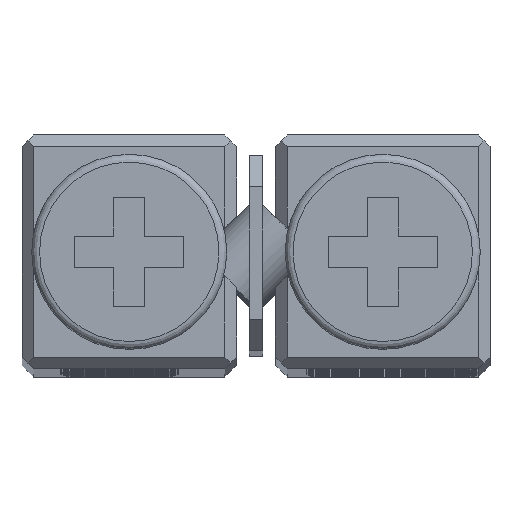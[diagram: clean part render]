
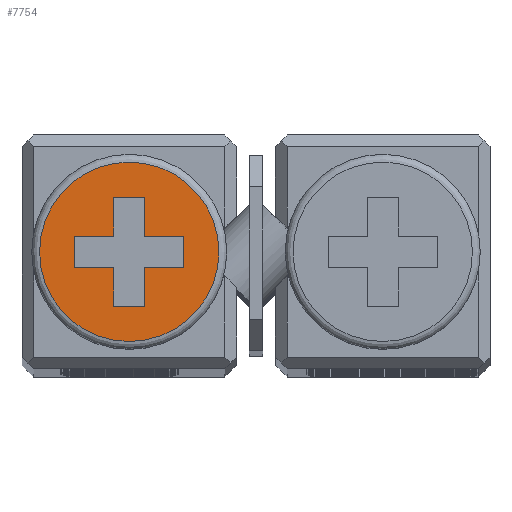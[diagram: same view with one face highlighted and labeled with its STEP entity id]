
A CAD part, top view. The second image highlights one B-rep face of the part: STEP entity #7754.
In plain terms, the highlighted planar face has unit normal (0, 0, 1).
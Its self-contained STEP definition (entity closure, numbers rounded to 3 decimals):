
#353=LINE('',#11278,#1039);
#354=LINE('',#11281,#1040);
#355=LINE('',#11283,#1041);
#356=LINE('',#11285,#1042);
#357=LINE('',#11287,#1043);
#358=LINE('',#11289,#1044);
#359=LINE('',#11291,#1045);
#360=LINE('',#11293,#1046);
#361=LINE('',#11295,#1047);
#362=LINE('',#11297,#1048);
#363=LINE('',#11299,#1049);
#364=LINE('',#11301,#1050);
#1039=VECTOR('',#9131,1000.);
#1040=VECTOR('',#9132,1000.);
#1041=VECTOR('',#9133,1000.);
#1042=VECTOR('',#9134,1000.);
#1043=VECTOR('',#9135,1000.);
#1044=VECTOR('',#9136,1000.);
#1045=VECTOR('',#9137,1000.);
#1046=VECTOR('',#9138,1000.);
#1047=VECTOR('',#9139,1000.);
#1048=VECTOR('',#9140,1000.);
#1049=VECTOR('',#9141,1000.);
#1050=VECTOR('',#9142,1000.);
#1888=ORIENTED_EDGE('',*,*,#3840,.F.);
#1889=ORIENTED_EDGE('',*,*,#3841,.F.);
#1890=ORIENTED_EDGE('',*,*,#3842,.F.);
#1891=ORIENTED_EDGE('',*,*,#3843,.F.);
#1892=ORIENTED_EDGE('',*,*,#3844,.F.);
#1893=ORIENTED_EDGE('',*,*,#3845,.F.);
#1894=ORIENTED_EDGE('',*,*,#3846,.F.);
#1895=ORIENTED_EDGE('',*,*,#3847,.F.);
#1896=ORIENTED_EDGE('',*,*,#3848,.F.);
#1897=ORIENTED_EDGE('',*,*,#3849,.F.);
#1898=ORIENTED_EDGE('',*,*,#3850,.F.);
#1899=ORIENTED_EDGE('',*,*,#3851,.F.);
#1900=ORIENTED_EDGE('',*,*,#3852,.T.);
#3840=EDGE_CURVE('',#4838,#4839,#353,.T.);
#3841=EDGE_CURVE('',#4840,#4838,#354,.T.);
#3842=EDGE_CURVE('',#4841,#4840,#355,.T.);
#3843=EDGE_CURVE('',#4842,#4841,#356,.T.);
#3844=EDGE_CURVE('',#4843,#4842,#357,.T.);
#3845=EDGE_CURVE('',#4844,#4843,#358,.T.);
#3846=EDGE_CURVE('',#4845,#4844,#359,.T.);
#3847=EDGE_CURVE('',#4846,#4845,#360,.T.);
#3848=EDGE_CURVE('',#4847,#4846,#361,.T.);
#3849=EDGE_CURVE('',#4848,#4847,#362,.T.);
#3850=EDGE_CURVE('',#4849,#4848,#363,.T.);
#3851=EDGE_CURVE('',#4839,#4849,#364,.T.);
#3852=EDGE_CURVE('',#4850,#4850,#5488,.T.);
#4838=VERTEX_POINT('',#11279);
#4839=VERTEX_POINT('',#11280);
#4840=VERTEX_POINT('',#11282);
#4841=VERTEX_POINT('',#11284);
#4842=VERTEX_POINT('',#11286);
#4843=VERTEX_POINT('',#11288);
#4844=VERTEX_POINT('',#11290);
#4845=VERTEX_POINT('',#11292);
#4846=VERTEX_POINT('',#11294);
#4847=VERTEX_POINT('',#11296);
#4848=VERTEX_POINT('',#11298);
#4849=VERTEX_POINT('',#11300);
#4850=VERTEX_POINT('',#11303);
#5488=CIRCLE('',#8192,2.3);
#5807=EDGE_LOOP('',(#1888,#1889,#1890,#1891,#1892,#1893,#1894,#1895,#1896,
#1897,#1898,#1899));
#5808=EDGE_LOOP('',(#1900));
#6339=FACE_BOUND('',#5807,.T.);
#6340=FACE_BOUND('',#5808,.T.);
#6804=PLANE('',#8191);
#7754=ADVANCED_FACE('',(#6339,#6340),#6804,.T.);
#8191=AXIS2_PLACEMENT_3D('',#11277,#9129,#9130);
#8192=AXIS2_PLACEMENT_3D('',#11302,#9143,#9144);
#9129=DIRECTION('',(0.,0.,1.));
#9130=DIRECTION('',(1.,0.,0.));
#9131=DIRECTION('',(-1.,0.,0.));
#9132=DIRECTION('',(0.,-1.,0.));
#9133=DIRECTION('',(-1.,0.,0.));
#9134=DIRECTION('',(0.,1.,0.));
#9135=DIRECTION('',(-1.,0.,0.));
#9136=DIRECTION('',(0.,1.,0.));
#9137=DIRECTION('',(1.,0.,0.));
#9138=DIRECTION('',(0.,1.,0.));
#9139=DIRECTION('',(1.,0.,0.));
#9140=DIRECTION('',(0.,-1.,0.));
#9141=DIRECTION('',(1.,0.,0.));
#9142=DIRECTION('',(0.,-1.,0.));
#9143=DIRECTION('',(0.,0.,1.));
#9144=DIRECTION('',(1.,0.,0.));
#11277=CARTESIAN_POINT('',(0.,0.,1.4));
#11278=CARTESIAN_POINT('',(-0.4,0.4,1.4));
#11279=CARTESIAN_POINT('',(-0.4,0.4,1.4));
#11280=CARTESIAN_POINT('',(-1.4,0.4,1.4));
#11281=CARTESIAN_POINT('',(-0.4,1.4,1.4));
#11282=CARTESIAN_POINT('',(-0.4,1.4,1.4));
#11283=CARTESIAN_POINT('',(0.4,1.4,1.4));
#11284=CARTESIAN_POINT('',(0.4,1.4,1.4));
#11285=CARTESIAN_POINT('',(0.4,0.4,1.4));
#11286=CARTESIAN_POINT('',(0.4,0.4,1.4));
#11287=CARTESIAN_POINT('',(1.4,0.4,1.4));
#11288=CARTESIAN_POINT('',(1.4,0.4,1.4));
#11289=CARTESIAN_POINT('',(1.4,-0.4,1.4));
#11290=CARTESIAN_POINT('',(1.4,-0.4,1.4));
#11291=CARTESIAN_POINT('',(0.4,-0.4,1.4));
#11292=CARTESIAN_POINT('',(0.4,-0.4,1.4));
#11293=CARTESIAN_POINT('',(0.4,-1.4,1.4));
#11294=CARTESIAN_POINT('',(0.4,-1.4,1.4));
#11295=CARTESIAN_POINT('',(-0.4,-1.4,1.4));
#11296=CARTESIAN_POINT('',(-0.4,-1.4,1.4));
#11297=CARTESIAN_POINT('',(-0.4,-0.4,1.4));
#11298=CARTESIAN_POINT('',(-0.4,-0.4,1.4));
#11299=CARTESIAN_POINT('',(-1.4,-0.4,1.4));
#11300=CARTESIAN_POINT('',(-1.4,-0.4,1.4));
#11301=CARTESIAN_POINT('',(-1.4,0.4,1.4));
#11302=CARTESIAN_POINT('',(0.,0.,1.4));
#11303=CARTESIAN_POINT('',(2.3,0.,1.4));
